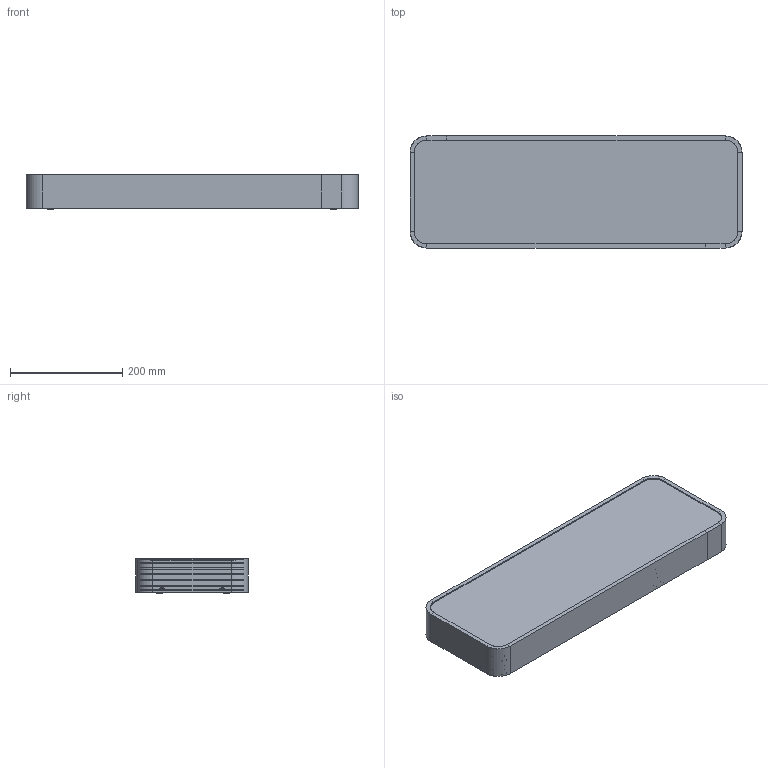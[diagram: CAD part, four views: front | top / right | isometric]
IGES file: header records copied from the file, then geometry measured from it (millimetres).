
Start section: SolidWorks IGES file using analytic representation for surfaces
Global section: file name: \\DC2003\projekty\soft\Profil 3D\Gotowe softy\SOFT 600x200_plafon.IGS; native system: SolidWorks 2016; preprocessor: SolidWorks 2016; author: Asia; date: 160711.115853; units: millimetre
Bounding box: 592.5 x 200 x 61.8 mm (x, y, z)
Surface area: 1043039.1 mm2 (no closed solid volume)
Topology: 0 solids, 0 shells, 903 faces, 12220 edges, 12220 vertices
Faces by surface type: bspline 591, revolution 312
